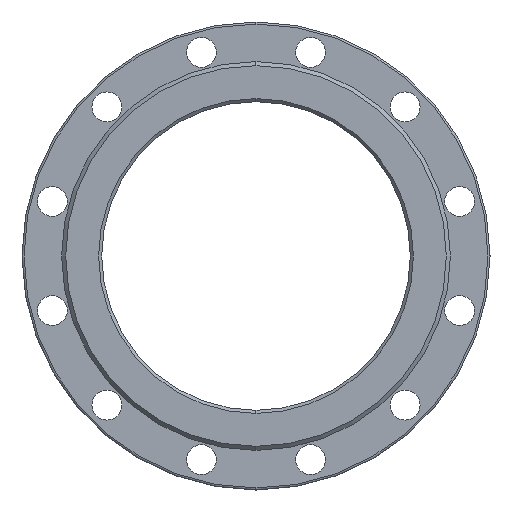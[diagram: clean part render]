
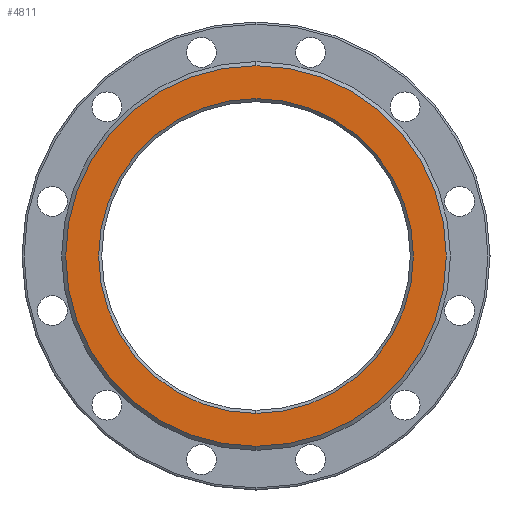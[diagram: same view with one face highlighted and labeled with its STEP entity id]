
A CAD part, left-side view. The second image highlights one B-rep face of the part: STEP entity #4811.
In plain terms, the highlighted planar face has unit normal (-1, 0, 0).
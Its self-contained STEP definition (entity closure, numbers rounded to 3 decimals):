
#34 = EDGE_CURVE ( 'Defeatured_0_3+Defeatured_0_26+Defeatured_0_26+Defeatured_0_26', #4610, #2404, #4744, .T. ) ;
#58 = DIRECTION ( 'NONE',  ( -1., 0., 0. ) ) ;
#171 = AXIS2_PLACEMENT_3D ( 'NONE', #2026, #503, #2406 ) ;
#503 = DIRECTION ( 'NONE',  ( 1., 0., 0. ) ) ;
#510 = CARTESIAN_POINT ( 'NONE',  ( -250., 0., 153. ) ) ;
#761 = FACE_BOUND ( 'NONE', #1675, .T. ) ;
#814 = CARTESIAN_POINT ( 'NONE',  ( -250., 150., 0. ) ) ;
#852 = CARTESIAN_POINT ( 'NONE',  ( -250., 0., 0. ) ) ;
#886 = DIRECTION ( 'NONE',  ( 1., 0., 0. ) ) ;
#990 = EDGE_CURVE ( 'Defeatured_0_3+Defeatured_0_4+Defeatured_0_4+Defeatured_0_4', #1072, #4202, #3200, .T. ) ;
#1021 = AXIS2_PLACEMENT_3D ( 'NONE', #2766, #886, #2393 ) ;
#1038 = EDGE_CURVE ( 'Defeatured_0_3+Defeatured_0_4+Defeatured_0_4+Defeatured_0_4', #4202, #1072, #3274, .T. ) ;
#1061 = CARTESIAN_POINT ( 'NONE',  ( -250., 0., -153. ) ) ;
#1072 = VERTEX_POINT ( 'NONE', #3493 ) ;
#1118 = DIRECTION ( 'NONE',  ( 0., 0., 1. ) ) ;
#1139 = DIRECTION ( 'NONE',  ( 0., 0., 1. ) ) ;
#1250 = AXIS2_PLACEMENT_3D ( 'NONE', #814, #1624, #4612 ) ;
#1283 = PLANE ( 'NONE',  #1250 ) ;
#1624 = DIRECTION ( 'NONE',  ( 1., 0., 0. ) ) ;
#1675 = EDGE_LOOP ( 'NONE', ( #4435, #3612 ) ) ;
#2026 = CARTESIAN_POINT ( 'NONE',  ( -250., 0., 0. ) ) ;
#2393 = DIRECTION ( 'NONE',  ( 0., 0., -1. ) ) ;
#2404 = VERTEX_POINT ( 'NONE', #510 ) ;
#2406 = DIRECTION ( 'NONE',  ( 0., 0., -1. ) ) ;
#2565 = ORIENTED_EDGE ( 'NONE', *, *, #1038, .T. ) ;
#2721 = AXIS2_PLACEMENT_3D ( 'NONE', #852, #58, #1139 ) ;
#2766 = CARTESIAN_POINT ( 'NONE',  ( -250., 0., 0. ) ) ;
#3117 = CARTESIAN_POINT ( 'NONE',  ( -250., 0., 0. ) ) ;
#3150 = CIRCLE ( 'NONE', #1021, 153. ) ;
#3200 = CIRCLE ( 'NONE', #4294, 185. ) ;
#3274 = CIRCLE ( 'NONE', #2721, 185. ) ;
#3493 = CARTESIAN_POINT ( 'NONE',  ( -250., 0., 185. ) ) ;
#3587 = ORIENTED_EDGE ( 'NONE', *, *, #990, .T. ) ;
#3612 = ORIENTED_EDGE ( 'NONE', *, *, #34, .T. ) ;
#3830 = FACE_OUTER_BOUND ( 'NONE', #4608, .T. ) ;
#3867 = DIRECTION ( 'NONE',  ( -1., 0., 0. ) ) ;
#3896 = CARTESIAN_POINT ( 'NONE',  ( -250., 0., -185. ) ) ;
#4198 = EDGE_CURVE ( 'Defeatured_0_3+Defeatured_0_26+Defeatured_0_26+Defeatured_0_26', #2404, #4610, #3150, .T. ) ;
#4202 = VERTEX_POINT ( 'NONE', #3896 ) ;
#4294 = AXIS2_PLACEMENT_3D ( 'NONE', #3117, #3867, #1118 ) ;
#4435 = ORIENTED_EDGE ( 'NONE', *, *, #4198, .T. ) ;
#4608 = EDGE_LOOP ( 'NONE', ( #2565, #3587 ) ) ;
#4610 = VERTEX_POINT ( 'NONE', #1061 ) ;
#4612 = DIRECTION ( 'NONE',  ( 0., 0., -1. ) ) ;
#4744 = CIRCLE ( 'NONE', #171, 153. ) ;
#4811 = ADVANCED_FACE ( 'Defeatured_0_3', ( #761, #3830 ), #1283, .F. ) ;
